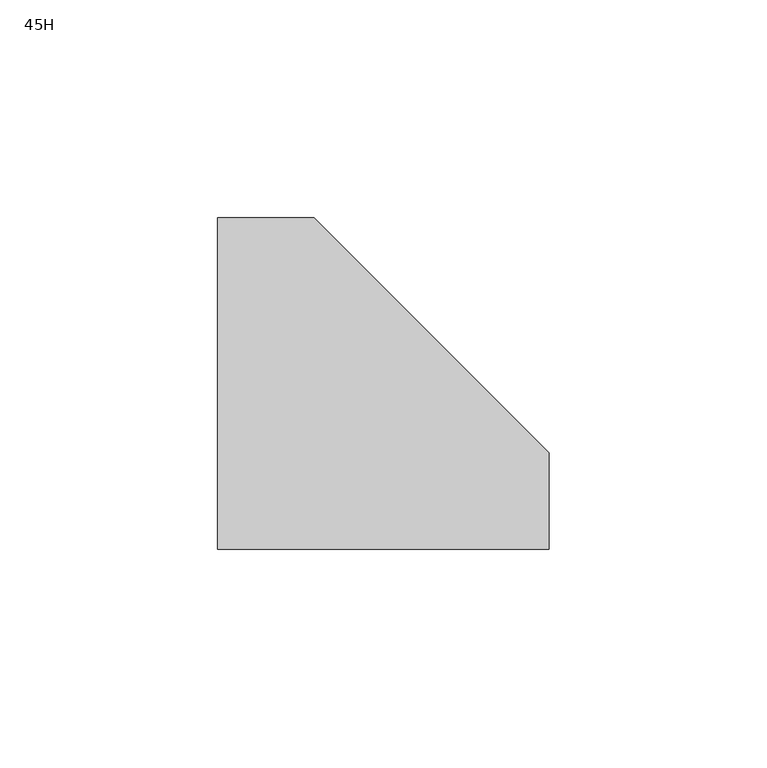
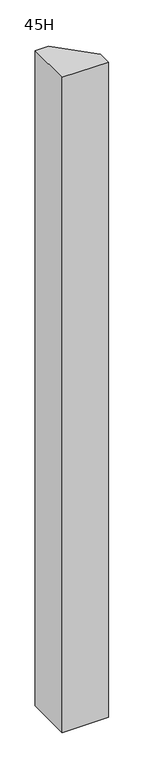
"""IFC4 building model written with IfcOpenShell, lengths in millimetres: furniture geometry, Steelcase - Montage - Junction - Y - Same-Height : 45H."""

from ifc_helpers import new_model, si_unit, frame, origin, place, context, project, spatial, polyline, outline, extrude, source, transform, mapped, element, save


def furniture_45h_4d69d027(model_context):
    return source(origin(), model_context, "Body", "SweptSolid", [
        extrude(outline(polyline([(457.2, -38.1000015), (457.2, 38.1000015), (479.424997, 38.1000015), (533.4, -15.8750015), (533.4, -38.1000015), (457.2, -38.1000015)])), frame((0.0, 0.0, 3.9624), z_axis=(0.0, 0.0, 1.0), x_axis=(1.0, 0.0, 0.0)), (0.0, 0.0, 1.0), 1132.6876),
    ])


if __name__ == "__main__":
    model = new_model("IFC4")
    model_context = context("Model", 3, world=origin())
    ifc_project = project(units=[si_unit("LENGTHUNIT", "METRE", prefix="MILLI")], contexts=[model_context])
    site = spatial("IfcSite", under=ifc_project)
    building = spatial("IfcBuilding", under=site)
    placement = place(None, origin())
    furniture_45h_shape = furniture_45h_4d69d027(model_context)
    element("IfcFurniture", 1, ObjectType="Steelcase - Montage - Junction - Y - Same-Height : 45H", at=placement, inside=building, context=model_context, shape_type="MappedRepresentation", body=[
        mapped(furniture_45h_shape, transform((0.0, 0.0, 0.0), x_axis=(1.0, 0.0, 0.0), y_axis=(0.0, 1.0, 0.0), z_axis=(0.0, 0.0, 1.0))),
    ])
    save(model, "model.ifc")
